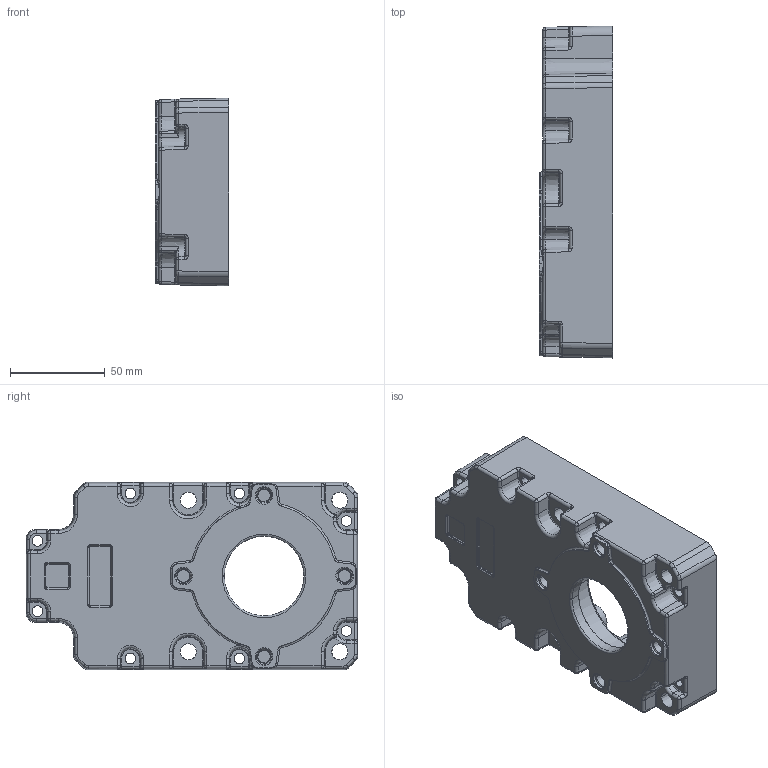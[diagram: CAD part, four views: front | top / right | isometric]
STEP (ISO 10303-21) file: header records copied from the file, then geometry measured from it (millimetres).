
FILE_DESCRIPTION(('CATIA V5 STEP Exchange'),'2;1');
FILE_NAME('C:\Users\Viblab-m4500\Desktop\prova\61109001b_prt.stp','2017-10-30T13:39:54+00:00',('none'),('none'),'CATIA Version 5-6 Release 2016 SP2','CATIA V5 STEP AP203','none');
FILE_SCHEMA(('CONFIG_CONTROL_DESIGN'));
Products named in the file (1): 61109001B
Bounding box: 38.5 x 174.97 x 98.97 mm (x, y, z)
Volume: 199223.2 mm3; surface area: 81957.2 mm2
Topology: 1 solids, 1 shells, 1087 faces, 2579 edges, 1509 vertices
Faces by surface type: bspline 323, torus 258, cylinder 242, plane 124, cone 114, sphere 26
Entity records: 47868 total; most frequent: CARTESIAN_POINT 26895, ORIENTED_EDGE 5150, DIRECTION 3078, EDGE_CURVE 2575, AXIS2_PLACEMENT_3D 1752, VERTEX_POINT 1509, EDGE_LOOP 1132, ADVANCED_FACE 1087
